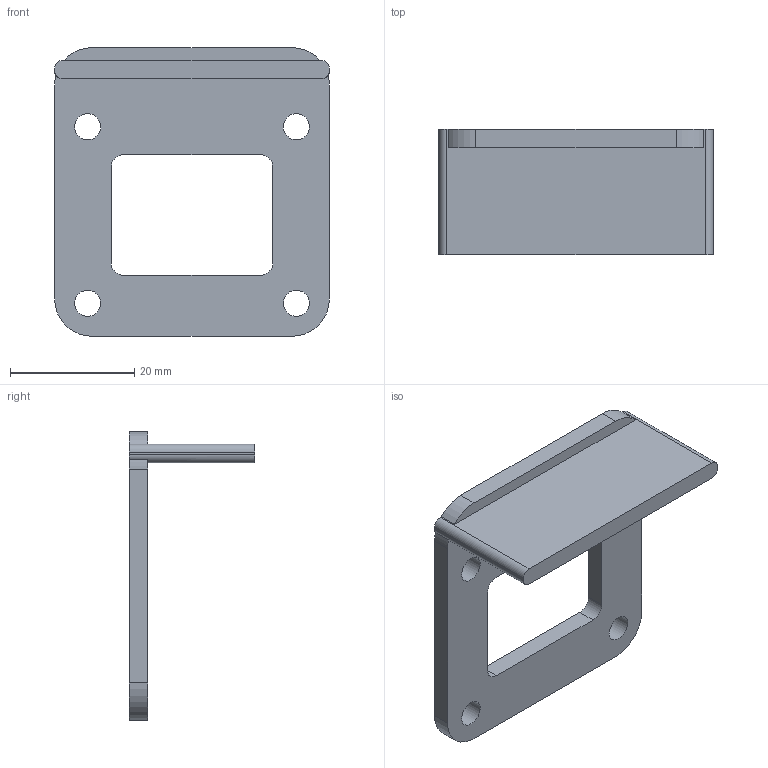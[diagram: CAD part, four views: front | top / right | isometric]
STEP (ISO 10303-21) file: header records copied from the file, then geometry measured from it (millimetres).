
FILE_DESCRIPTION(('FreeCAD Model'),'2;1');
FILE_NAME('Open CASCADE Shape Model','2026-10-14T02:29:13',('FreeCAD'),( 'FreeCAD'),'Open CASCADE STEP processor 7.8','FreeCAD','Unknown');
FILE_SCHEMA(('AUTOMOTIVE_DESIGN { 1 0 10303 214 1 1 1 1 }'));
Length unit declared in the file: millimetre
Products named in the file (1): Open CASCADE STEP translator 7.8 73
Bounding box: 44.16 x 20.2 x 46.38 mm (x, y, z)
Volume: 6649 mm3; surface area: 5450.5 mm2
Topology: 1 solids, 1 shells, 38 faces, 102 edges, 66 vertices
Faces by surface type: plane 20, cylinder 18
Full cylindrical faces by diameter (mm): 4.2 x4
Entity records: 1230 total; most frequent: DIRECTION 222, CARTESIAN_POINT 207, ORIENTED_EDGE 204, EDGE_CURVE 102, AXIS2_PLACEMENT_3D 81, VERTEX_POINT 66, LINE 60, VECTOR 60
